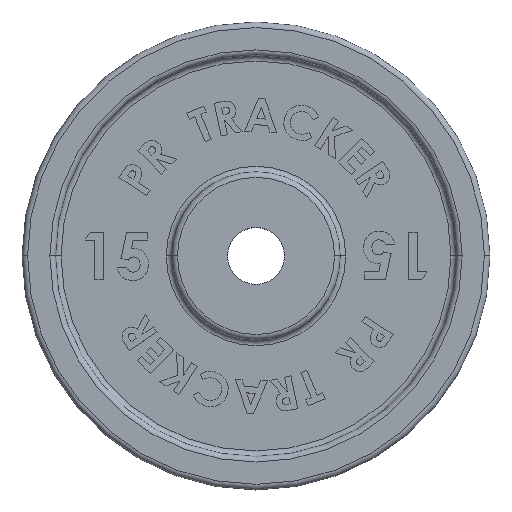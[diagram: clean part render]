
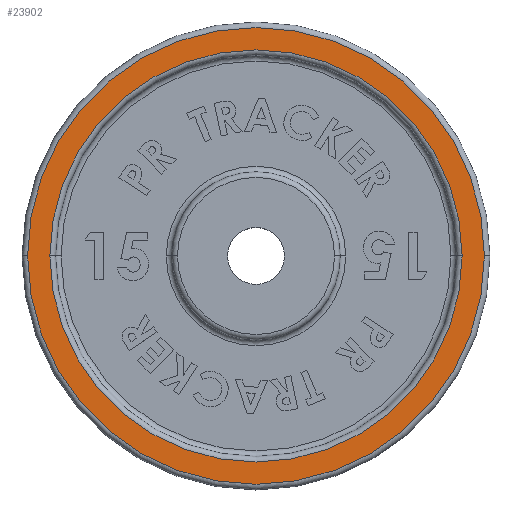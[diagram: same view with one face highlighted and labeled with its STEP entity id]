
A CAD part, top view. The second image highlights one B-rep face of the part: STEP entity #23902.
In plain terms, the highlighted planar face has unit normal (0, 0, 1).
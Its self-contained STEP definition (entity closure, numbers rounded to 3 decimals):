
#110 = CARTESIAN_POINT ( 'NONE',  ( 18.5, 0., 6. ) ) ;
#1021 = AXIS2_PLACEMENT_3D ( 'NONE', #9075, #2756, #19665 ) ;
#2269 = ORIENTED_EDGE ( 'NONE', *, *, #26625, .T. ) ;
#2756 = DIRECTION ( 'NONE',  ( 0., 0., 1. ) ) ;
#3097 = DIRECTION ( 'NONE',  ( 0., 0., 1. ) ) ;
#4685 = CARTESIAN_POINT ( 'NONE',  ( 20.5, 0., 6. ) ) ;
#4863 = EDGE_LOOP ( 'NONE', ( #2269, #24139 ) ) ;
#6250 = CARTESIAN_POINT ( 'NONE',  ( 0., 0., 6. ) ) ;
#7813 = EDGE_CURVE ( 'NONE', #22981, #26357, #19771, .T. ) ;
#8802 = EDGE_CURVE ( 'NONE', #25977, #19874, #25957, .T. ) ;
#9075 = CARTESIAN_POINT ( 'NONE',  ( 0., 0., 6. ) ) ;
#9562 = CARTESIAN_POINT ( 'NONE',  ( 0., 0., 6. ) ) ;
#10128 = DIRECTION ( 'NONE',  ( 0., 0., -1. ) ) ;
#11026 = DIRECTION ( 'NONE',  ( 0., 0., -1. ) ) ;
#11536 = ORIENTED_EDGE ( 'NONE', *, *, #11738, .T. ) ;
#11738 = EDGE_CURVE ( 'NONE', #19874, #25977, #18778, .T. ) ;
#13196 = PLANE ( 'NONE',  #1021 ) ;
#15810 = ORIENTED_EDGE ( 'NONE', *, *, #8802, .T. ) ;
#16055 = CARTESIAN_POINT ( 'NONE',  ( 0., 0., 6. ) ) ;
#16162 = DIRECTION ( 'NONE',  ( 0., 0., 1. ) ) ;
#16879 = CIRCLE ( 'NONE', #23037, 18.5 ) ;
#18030 = AXIS2_PLACEMENT_3D ( 'NONE', #21885, #11026, #19421 ) ;
#18446 = CARTESIAN_POINT ( 'NONE',  ( -18.5, 0., 6. ) ) ;
#18512 = DIRECTION ( 'NONE',  ( 1., 0., 0. ) ) ;
#18778 = CIRCLE ( 'NONE', #25369, 20.5 ) ;
#19160 = EDGE_LOOP ( 'NONE', ( #11536, #15810 ) ) ;
#19421 = DIRECTION ( 'NONE',  ( 1., 0., 0. ) ) ;
#19533 = FACE_BOUND ( 'NONE', #4863, .T. ) ;
#19595 = CARTESIAN_POINT ( 'NONE',  ( -20.5, 0., 6. ) ) ;
#19665 = DIRECTION ( 'NONE',  ( 1., 0., 0. ) ) ;
#19771 = CIRCLE ( 'NONE', #18030, 18.5 ) ;
#19797 = AXIS2_PLACEMENT_3D ( 'NONE', #9562, #3097, #22205 ) ;
#19874 = VERTEX_POINT ( 'NONE', #4685 ) ;
#21885 = CARTESIAN_POINT ( 'NONE',  ( 0., 0., 6. ) ) ;
#22205 = DIRECTION ( 'NONE',  ( 1., 0., 0. ) ) ;
#22981 = VERTEX_POINT ( 'NONE', #18446 ) ;
#23037 = AXIS2_PLACEMENT_3D ( 'NONE', #16055, #10128, #18512 ) ;
#23902 = ADVANCED_FACE ( 'NONE', ( #23944, #19533 ), #13196, .T. ) ;
#23944 = FACE_OUTER_BOUND ( 'NONE', #19160, .T. ) ;
#24139 = ORIENTED_EDGE ( 'NONE', *, *, #7813, .T. ) ;
#25362 = DIRECTION ( 'NONE',  ( 1., 0., 0. ) ) ;
#25369 = AXIS2_PLACEMENT_3D ( 'NONE', #6250, #16162, #25362 ) ;
#25957 = CIRCLE ( 'NONE', #19797, 20.5 ) ;
#25977 = VERTEX_POINT ( 'NONE', #19595 ) ;
#26357 = VERTEX_POINT ( 'NONE', #110 ) ;
#26625 = EDGE_CURVE ( 'NONE', #26357, #22981, #16879, .T. ) ;
